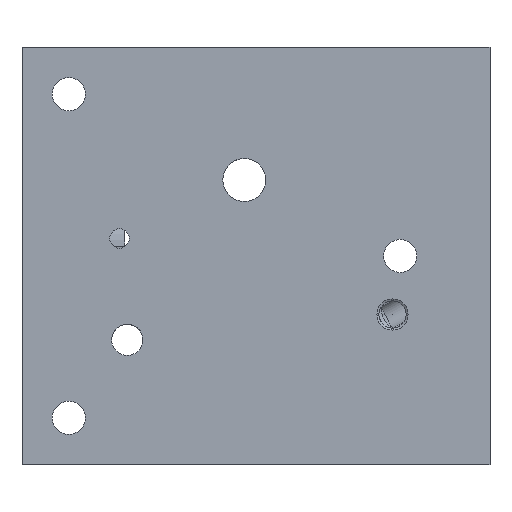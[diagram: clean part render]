
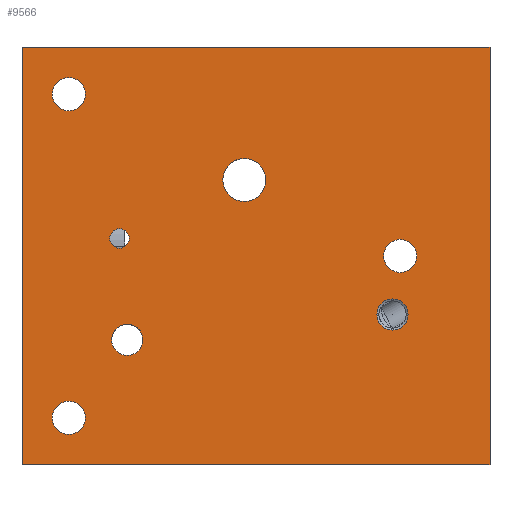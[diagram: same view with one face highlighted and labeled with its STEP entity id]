
A CAD part, front view. The second image highlights one B-rep face of the part: STEP entity #9566.
In plain terms, the highlighted planar face has unit normal (0, -1, 0).
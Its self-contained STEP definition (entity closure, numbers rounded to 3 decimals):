
#779=DIRECTION('',(1.,0.,0.));
#780=VECTOR('',#779,120.);
#781=CARTESIAN_POINT('',(0.,-90.,0.));
#782=LINE('',#781,#780);
#786=DIRECTION('',(0.,0.,-1.));
#787=VECTOR('',#786,107.);
#788=CARTESIAN_POINT('',(120.,-90.,0.));
#789=LINE('',#788,#787);
#793=DIRECTION('',(-1.,0.,0.));
#794=VECTOR('',#793,120.);
#795=CARTESIAN_POINT('',(120.,-90.,-107.));
#796=LINE('',#795,#794);
#800=DIRECTION('',(0.,0.,1.));
#801=VECTOR('',#800,107.);
#802=CARTESIAN_POINT('',(0.,-90.,-107.));
#803=LINE('',#802,#801);
#807=CARTESIAN_POINT('',(12.,-90.,-12.));
#808=DIRECTION('',(0.,-1.,0.));
#809=DIRECTION('',(1.,0.,0.));
#810=AXIS2_PLACEMENT_3D('',#807,#808,#809);
#815=CARTESIAN_POINT('',(12.,-90.,-12.));
#816=DIRECTION('',(0.,-1.,0.));
#817=DIRECTION('',(-1.,0.,0.));
#818=AXIS2_PLACEMENT_3D('',#815,#816,#817);
#823=CARTESIAN_POINT('',(12.,-90.,-95.));
#824=DIRECTION('',(0.,-1.,0.));
#825=DIRECTION('',(1.,0.,0.));
#826=AXIS2_PLACEMENT_3D('',#823,#824,#825);
#831=CARTESIAN_POINT('',(12.,-90.,-95.));
#832=DIRECTION('',(0.,-1.,0.));
#833=DIRECTION('',(-1.,0.,0.));
#834=AXIS2_PLACEMENT_3D('',#831,#832,#833);
#839=CARTESIAN_POINT('',(97.,-90.,-53.5));
#840=DIRECTION('',(0.,-1.,0.));
#841=DIRECTION('',(1.,0.,0.));
#842=AXIS2_PLACEMENT_3D('',#839,#840,#841);
#847=CARTESIAN_POINT('',(97.,-90.,-53.5));
#848=DIRECTION('',(0.,-1.,0.));
#849=DIRECTION('',(-1.,0.,0.));
#850=AXIS2_PLACEMENT_3D('',#847,#848,#849);
#855=CARTESIAN_POINT('',(25.,-90.,-49.));
#856=DIRECTION('',(0.,-1.,0.));
#857=DIRECTION('',(1.,0.,0.));
#858=AXIS2_PLACEMENT_3D('',#855,#856,#857);
#863=CARTESIAN_POINT('',(25.,-90.,-49.));
#864=DIRECTION('',(0.,-1.,0.));
#865=DIRECTION('',(-1.,0.,0.));
#866=AXIS2_PLACEMENT_3D('',#863,#864,#865);
#871=CARTESIAN_POINT('',(27.,-90.,-75.));
#872=DIRECTION('',(0.,-1.,0.));
#873=DIRECTION('',(1.,0.,0.));
#874=AXIS2_PLACEMENT_3D('',#871,#872,#873);
#879=CARTESIAN_POINT('',(27.,-90.,-75.));
#880=DIRECTION('',(0.,-1.,0.));
#881=DIRECTION('',(-1.,0.,0.));
#882=AXIS2_PLACEMENT_3D('',#879,#880,#881);
#887=CARTESIAN_POINT('',(57.,-90.,-34.));
#888=DIRECTION('',(0.,-1.,0.));
#889=DIRECTION('',(1.,0.,0.));
#890=AXIS2_PLACEMENT_3D('',#887,#888,#889);
#895=CARTESIAN_POINT('',(57.,-90.,-34.));
#896=DIRECTION('',(0.,-1.,0.));
#897=DIRECTION('',(-1.,0.,0.));
#898=AXIS2_PLACEMENT_3D('',#895,#896,#897);
#903=CARTESIAN_POINT('',(95.,-90.,-68.5));
#904=DIRECTION('',(0.,-1.,0.));
#905=DIRECTION('',(-1.,0.,0.));
#906=AXIS2_PLACEMENT_3D('',#903,#904,#905);
#911=CARTESIAN_POINT('',(95.,-90.,-68.5));
#912=DIRECTION('',(0.,-1.,0.));
#913=DIRECTION('',(1.,0.,0.));
#914=AXIS2_PLACEMENT_3D('',#911,#912,#913);
#8575=CARTESIAN_POINT('',(0.,-90.,0.));
#8576=CARTESIAN_POINT('',(120.,-90.,0.));
#8577=VERTEX_POINT('',#8575);
#8578=VERTEX_POINT('',#8576);
#8579=CARTESIAN_POINT('',(120.,-90.,-107.));
#8580=VERTEX_POINT('',#8579);
#8581=CARTESIAN_POINT('',(0.,-90.,-107.));
#8582=VERTEX_POINT('',#8581);
#8587=CARTESIAN_POINT('',(16.25,-90.,-12.));
#8588=CARTESIAN_POINT('',(7.75,-90.,-12.));
#8589=VERTEX_POINT('',#8587);
#8590=VERTEX_POINT('',#8588);
#8592=CARTESIAN_POINT('',(16.25,-90.,-95.));
#8594=VERTEX_POINT('',#8592);
#8596=CARTESIAN_POINT('',(7.75,-90.,-95.));
#8598=VERTEX_POINT('',#8596);
#8600=CARTESIAN_POINT('',(101.25,-90.,-53.5));
#8602=VERTEX_POINT('',#8600);
#8604=CARTESIAN_POINT('',(92.75,-90.,-53.5));
#8606=VERTEX_POINT('',#8604);
#8623=CARTESIAN_POINT('',(27.5,-90.,-49.));
#8624=CARTESIAN_POINT('',(22.5,-90.,-49.));
#8625=VERTEX_POINT('',#8623);
#8626=VERTEX_POINT('',#8624);
#8725=CARTESIAN_POINT('',(31.,-90.,-75.));
#8726=CARTESIAN_POINT('',(23.,-90.,-75.));
#8727=VERTEX_POINT('',#8725);
#8728=VERTEX_POINT('',#8726);
#8733=CARTESIAN_POINT('',(62.5,-90.,-34.));
#8734=CARTESIAN_POINT('',(51.5,-90.,-34.));
#8735=VERTEX_POINT('',#8733);
#8736=VERTEX_POINT('',#8734);
#9008=CARTESIAN_POINT('',(91.,-90.,-68.5));
#9009=VERTEX_POINT('',#9008);
#9010=CARTESIAN_POINT('',(99.,-90.,-68.5));
#9011=VERTEX_POINT('',#9010);
#9513=CARTESIAN_POINT('',(0.,-90.,0.));
#9514=DIRECTION('',(0.,1.,0.));
#9515=DIRECTION('',(1.,0.,0.));
#9516=AXIS2_PLACEMENT_3D('',#9513,#9514,#9515);
#9517=PLANE('',#9516);
#9518=ORIENTED_EDGE('',*,*,#9291,.T.);
#9519=ORIENTED_EDGE('',*,*,#9324,.T.);
#9520=ORIENTED_EDGE('',*,*,#9416,.T.);
#9521=ORIENTED_EDGE('',*,*,#9465,.T.);
#9522=EDGE_LOOP('',(#9518,#9519,#9520,#9521));
#9523=FACE_OUTER_BOUND('',#9522,.F.);
#9525=ORIENTED_EDGE('',*,*,#9524,.T.);
#9527=ORIENTED_EDGE('',*,*,#9526,.T.);
#9528=EDGE_LOOP('',(#9525,#9527));
#9529=FACE_BOUND('',#9528,.F.);
#9531=ORIENTED_EDGE('',*,*,#9530,.T.);
#9533=ORIENTED_EDGE('',*,*,#9532,.T.);
#9534=EDGE_LOOP('',(#9531,#9533));
#9535=FACE_BOUND('',#9534,.F.);
#9537=ORIENTED_EDGE('',*,*,#9536,.T.);
#9539=ORIENTED_EDGE('',*,*,#9538,.T.);
#9540=EDGE_LOOP('',(#9537,#9539));
#9541=FACE_BOUND('',#9540,.F.);
#9543=ORIENTED_EDGE('',*,*,#9542,.T.);
#9545=ORIENTED_EDGE('',*,*,#9544,.T.);
#9546=EDGE_LOOP('',(#9543,#9545));
#9547=FACE_BOUND('',#9546,.F.);
#9549=ORIENTED_EDGE('',*,*,#9548,.T.);
#9551=ORIENTED_EDGE('',*,*,#9550,.T.);
#9552=EDGE_LOOP('',(#9549,#9551));
#9553=FACE_BOUND('',#9552,.F.);
#9555=ORIENTED_EDGE('',*,*,#9554,.T.);
#9557=ORIENTED_EDGE('',*,*,#9556,.T.);
#9558=EDGE_LOOP('',(#9555,#9557));
#9559=FACE_BOUND('',#9558,.F.);
#9561=ORIENTED_EDGE('',*,*,#9560,.T.);
#9563=ORIENTED_EDGE('',*,*,#9562,.T.);
#9564=EDGE_LOOP('',(#9561,#9563));
#9565=FACE_BOUND('',#9564,.F.);
#811=CIRCLE('',#810,4.25);
#819=CIRCLE('',#818,4.25);
#827=CIRCLE('',#826,4.25);
#835=CIRCLE('',#834,4.25);
#843=CIRCLE('',#842,4.25);
#851=CIRCLE('',#850,4.25);
#859=CIRCLE('',#858,2.5);
#867=CIRCLE('',#866,2.5);
#875=CIRCLE('',#874,4.);
#883=CIRCLE('',#882,4.);
#891=CIRCLE('',#890,5.5);
#899=CIRCLE('',#898,5.5);
#907=CIRCLE('',#906,4.);
#915=CIRCLE('',#914,4.);
#9291=EDGE_CURVE('',#8577,#8578,#782,.T.);
#9324=EDGE_CURVE('',#8578,#8580,#789,.T.);
#9416=EDGE_CURVE('',#8580,#8582,#796,.T.);
#9465=EDGE_CURVE('',#8582,#8577,#803,.T.);
#9524=EDGE_CURVE('',#8589,#8590,#811,.T.);
#9526=EDGE_CURVE('',#8590,#8589,#819,.T.);
#9530=EDGE_CURVE('',#8594,#8598,#827,.T.);
#9532=EDGE_CURVE('',#8598,#8594,#835,.T.);
#9536=EDGE_CURVE('',#8602,#8606,#843,.T.);
#9538=EDGE_CURVE('',#8606,#8602,#851,.T.);
#9542=EDGE_CURVE('',#8625,#8626,#859,.T.);
#9544=EDGE_CURVE('',#8626,#8625,#867,.T.);
#9548=EDGE_CURVE('',#8727,#8728,#875,.T.);
#9550=EDGE_CURVE('',#8728,#8727,#883,.T.);
#9554=EDGE_CURVE('',#8735,#8736,#891,.T.);
#9556=EDGE_CURVE('',#8736,#8735,#899,.T.);
#9560=EDGE_CURVE('',#9009,#9011,#907,.T.);
#9562=EDGE_CURVE('',#9011,#9009,#915,.T.);
#9566=ADVANCED_FACE('',(#9523,#9529,#9535,#9541,#9547,#9553,#9559,#9565),#9517,
.F.);
